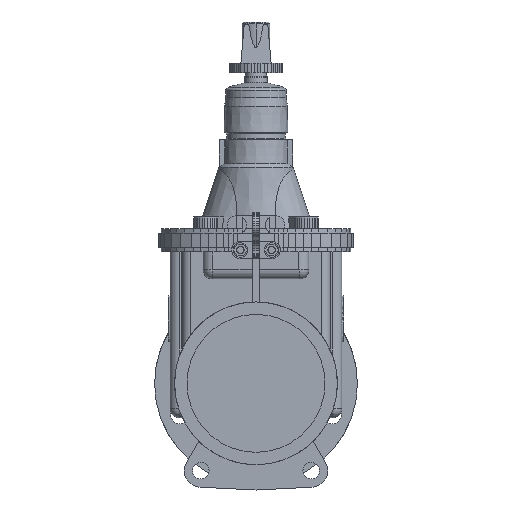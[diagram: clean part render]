
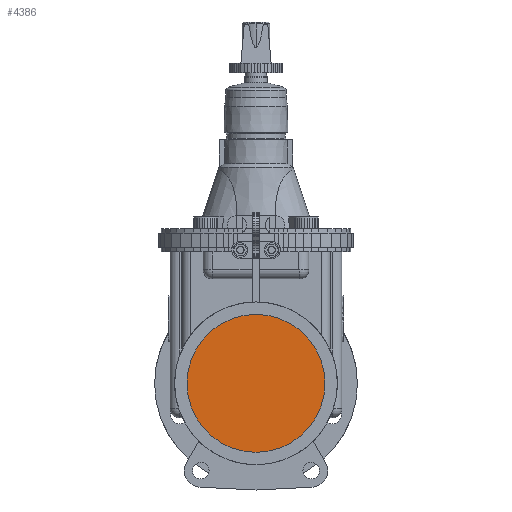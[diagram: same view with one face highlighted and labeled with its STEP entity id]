
A CAD part, left-side view. The second image highlights one B-rep face of the part: STEP entity #4386.
In plain terms, the highlighted planar face has unit normal (-1, 0, 0).
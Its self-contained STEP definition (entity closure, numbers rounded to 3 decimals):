
#4325=AXIS2_PLACEMENT_3D('Circle Axis2P3D',#4323,#4324,$) ;
#4350=AXIS2_PLACEMENT_3D('Circle Axis2P3D',#4348,#4349,$) ;
#4380=AXIS2_PLACEMENT_3D('Plane Axis2P3D',#4377,#4378,#4379) ;
#4306=CARTESIAN_POINT('Vertex',(-79.8,0.,-75.)) ;
#4320=CARTESIAN_POINT('Vertex',(-79.8,0.,75.)) ;
#4323=CARTESIAN_POINT('Axis2P3D Location',(-79.8,0.,0.)) ;
#4348=CARTESIAN_POINT('Axis2P3D Location',(-79.8,0.,0.)) ;
#4377=CARTESIAN_POINT('Axis2P3D Location',(-79.8,0.,0.)) ;
#4324=DIRECTION('Axis2P3D Direction',(1.,-0.,0.)) ;
#4349=DIRECTION('Axis2P3D Direction',(1.,-0.,0.)) ;
#4378=DIRECTION('Axis2P3D Direction',(-1.,0.,0.)) ;
#4379=DIRECTION('Axis2P3D XDirection',(0.,0.,-1.)) ;
#4383=ORIENTED_EDGE('',*,*,#4327,.T.) ;
#4384=ORIENTED_EDGE('',*,*,#4352,.T.) ;
#4386=ADVANCED_FACE('6',(#4385),#4381,.T.) ;
#4326=CIRCLE('generated circle',#4325,75.) ;
#4351=CIRCLE('generated circle',#4350,75.) ;
#4327=EDGE_CURVE('',#4307,#4321,#4326,.F.) ;
#4352=EDGE_CURVE('',#4321,#4307,#4351,.F.) ;
#4382=EDGE_LOOP('',(#4383,#4384)) ;
#4385=FACE_OUTER_BOUND('',#4382,.T.) ;
#4381=PLANE('',#4380) ;
#4307=VERTEX_POINT('',#4306) ;
#4321=VERTEX_POINT('',#4320) ;
